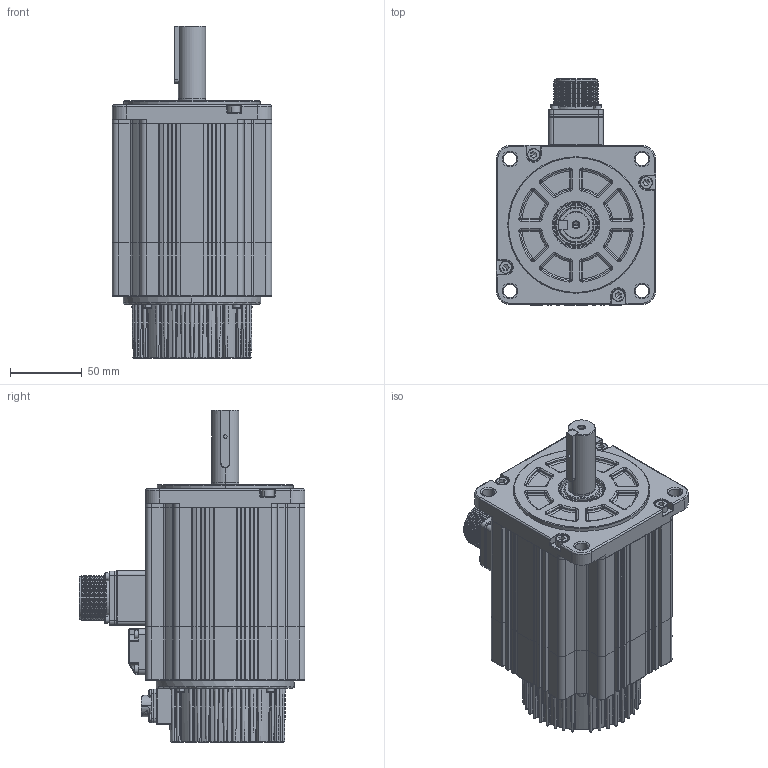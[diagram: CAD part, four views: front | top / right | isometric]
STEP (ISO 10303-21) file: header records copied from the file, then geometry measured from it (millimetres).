
FILE_DESCRIPTION (( 'STEP AP214' ), '1' );
FILE_NAME ('83³¤»ú¿Ç ´øÉ²³µ.STEP', '2021-08-10T11:04:25', ( '' ), ( '' ), 'SwSTEP 2.0', 'SolidWorks 2014', '' );
FILE_SCHEMA (( 'AUTOMOTIVE_DESIGN' ));
Length unit declared in the file: millimetre
Products named in the file (18): 囀鞠褒 ISO 4762 M5 x 18; 坋趼羞攫芛蹟隊M3℅8; 价陬揤盄裔200912; 囀鞠褒 M3X10; 瑤諾脣芛 SC-CMV1-R10P-1; SC瑤諾脣芛 MS3102A20-18P; 83酗儂褲 湍价陬; 110#綴傷裔-价陬遴; SC晤鎢ん欶200908_9郋; 普通型 平键   C 6x6x40 带M3起键螺钉孔-1; 蚐猾 D00B999YF9-TC 25-32-4-110#; 110#儂褲; 雄薯瑤脣釱200909; 110#隅赽郪璃; 110#ヶ傷裔; 囀鞠褒 M3X30; 110#陔粣-拸价陬; 囀鞠褒 M3X8
Assembly tree (36 placements, depth 3):
  83酗儂褲 湍价陬
    110#隅赽郪璃
      110#儂褲
      雄薯瑤脣釱200909
      110#ヶ傷裔
    蚐猾 D00B999YF9-TC 25-32-4-110#
    110#陔粣-拸价陬
    普通型 平键   C 6x6x40 带M3起键螺钉孔-1
    瑤諾脣芛 SC-CMV1-R10P-1
    SC晤鎢ん欶200908_9郋
    囀鞠褒 M3X30  x4
    囀鞠褒 M3X10  x4
    坋趼羞攫芛蹟隊M3℅8  x4
    囀鞠褒 ISO 4762 M5 x 18  x8
    110#綴傷裔-价陬遴
    SC瑤諾脣芛 MS3102A20-18P
    价陬揤盄裔200912
    囀鞠褒 M3X8  x4
Bounding box: 111 x 157.3 x 231.2 mm (x, y, z)
Volume: 632494 mm3; surface area: 262941 mm2
Topology: 37 solids, 37 shells, 3525 faces, 8352 edges, 4795 vertices
Faces by surface type: cylinder 1283, plane 856, torus 516, cone 349, bspline 331, sphere 190
Entity records: 99027 total; most frequent: CARTESIAN_POINT 26340, DIRECTION 15302, ORIENTED_EDGE 13964, EDGE_CURVE 6982, AXIS2_PLACEMENT_3D 6356, VERTEX_POINT 4102, CIRCLE 3562, EDGE_LOOP 3260
